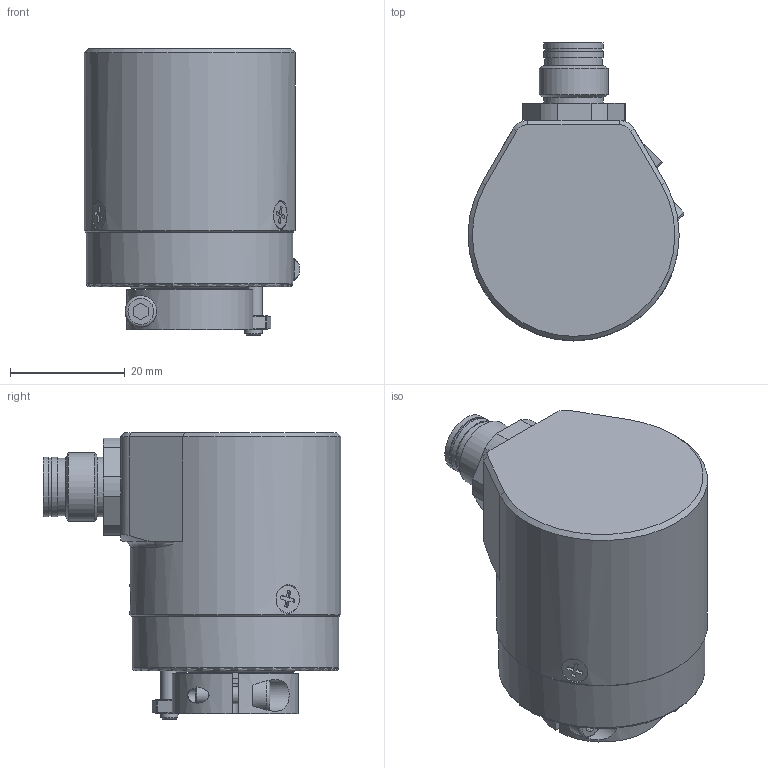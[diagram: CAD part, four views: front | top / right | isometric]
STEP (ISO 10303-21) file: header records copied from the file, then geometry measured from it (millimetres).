
FILE_DESCRIPTION(/* description */ ('Unknown'),/* implementation_level */ '2;1');
FILE_NAME(/* name */ 'EA_EAM_36G_10mm_M12R',/* time_stamp */ '2019-06-26T12:48:49+02:00',/* author */ ('Unknown'),/* organization */ ('Unknown'),/* preprocessor_version */ 'ST-DEVELOPER v16.7',/* originating_system */ 'DEX',/* authorisation */ $);
FILE_SCHEMA (('AP203_CONFIGURATION_CONTROLLED_3D_DESIGN_OF_MECHANICAL_PARTS_AND_ASSEMBLIES_MIM_LF { 1 0 10303 203 3 1 4 }','AP242_MANAGED_MODEL_BASED_3D_ENGINEERING_MIM_LF { 1 0 10303 442 1 1 4 }','AUTOMOTIVE_DESIGN {1 0 10303 214 3 1 1}'));
Length unit declared in the file: millimetre
Products named in the file (1): EA_EAM_36G_10mm_PR
Bounding box: 37.63 x 51.9 x 50 mm (x, y, z)
Volume: 26213.4 mm3; surface area: 20479.3 mm2
Topology: 1 solids, 11 shells, 468 faces, 1145 edges, 753 vertices
Faces by surface type: plane 216, cylinder 151, cone 76, torus 20, sphere 3, bspline 2
Full cylindrical faces by diameter (mm): 0.9 x16, 1.221 x2, 1.45 x1, 1.5 x8, 1.6 x2, 2.013 x3, 2.459 x3, 2.5 x3, 2.7 x3, 3 x7, 3.2 x1, 3.242 x1, 8 x2, 8.25 x1, 10 x3, 10.4 x3, 11.8 x1, 12 x3, 12.4 x1, 13 x1, 14.5 x4, 14.53 x1, 15.2 x1, 18 x1, 18.5 x4, 21 x3, 21.1 x2, 31.3 x1, 33.6 x1, 34 x2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
Entity records: 15888 total; most frequent: CARTESIAN_POINT 2571, DIRECTION 2141, ORIENTED_EDGE 1774, EDGE_CURVE 887, AXIS2_PLACEMENT_3D 871, FACE_BOUND 717, EDGE_LOOP 709, VERTEX_POINT 660
